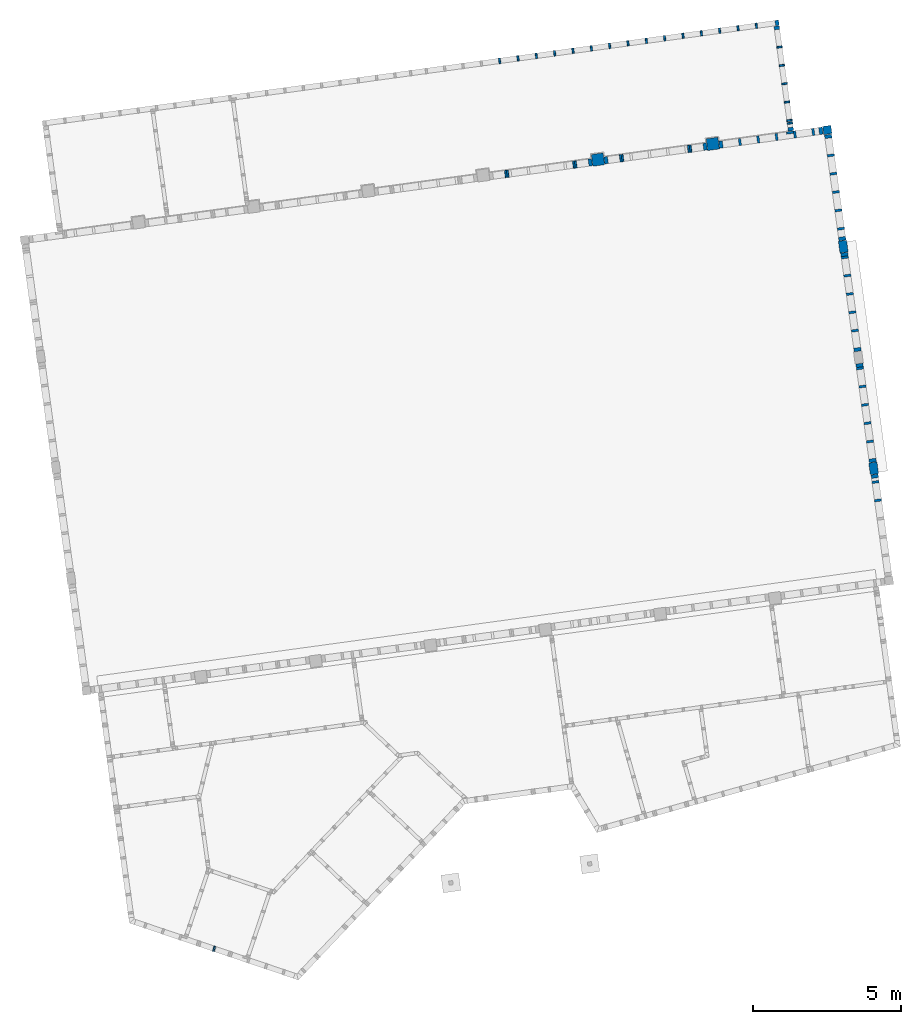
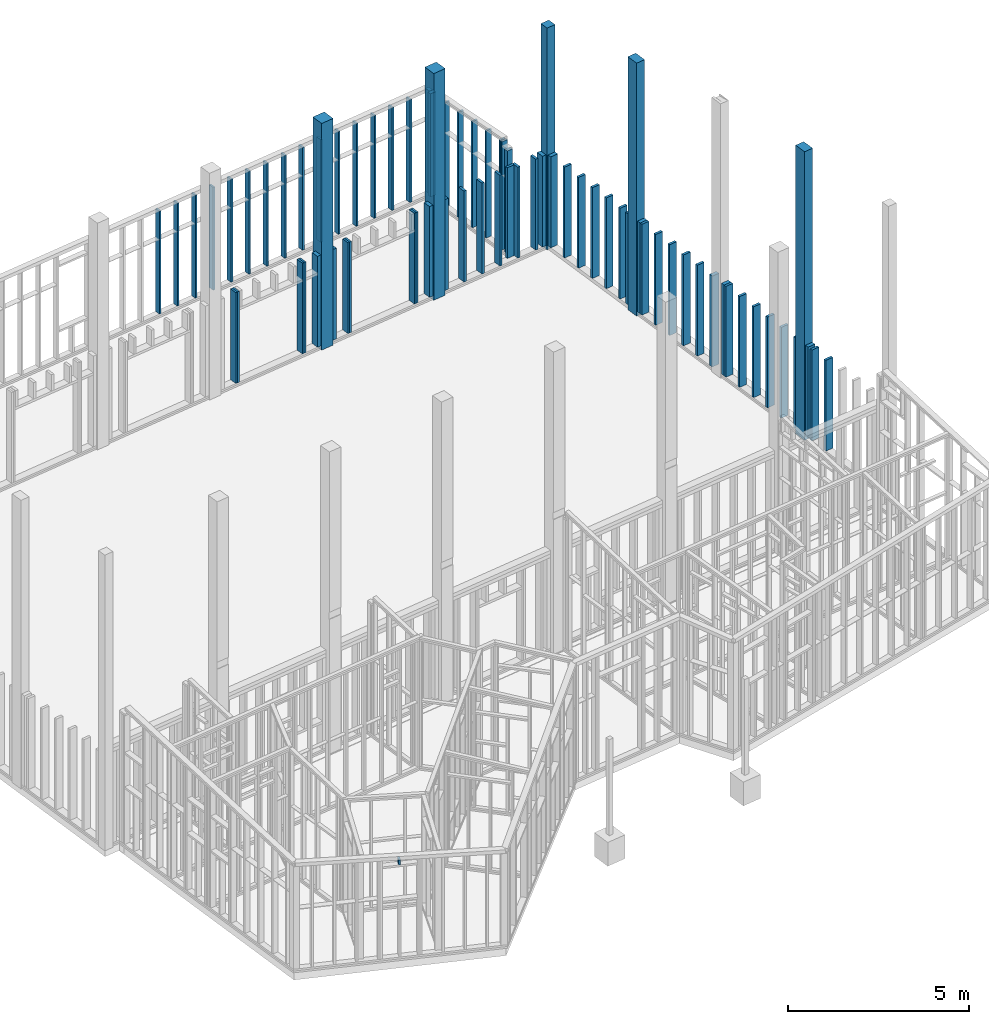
# One storey, part 7 of 24: 73 columns.
"""IFC2X3 building model written with IfcOpenShell, lengths in metres."""

from ifc_helpers import new_model, entity, si_unit, converted_unit, derived_unit, money_unit, direction, frame, origin_with_axes, origin_2d_with_axis, place, context, subcontext, project, spatial, rectangle, extrude, material, type_object, element, save


model = new_model("IFC2X3")

# Units and contexts
model_context = context("Model", 3, precision=1e-05, world=origin_with_axes(), true_north=direction((0.0, 1.0)))
body_context = subcontext(model_context, "Body", "Model", "MODEL_VIEW")
ifc_project = project(units=[si_unit("LENGTHUNIT", "METRE"), si_unit("AREAUNIT", "SQUARE_METRE"), si_unit("VOLUMEUNIT", "CUBIC_METRE"), converted_unit("PLANEANGLEUNIT", "DEGREE", entity("IfcPlaneAngleMeasure", 0.0174532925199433), si_unit("PLANEANGLEUNIT", "RADIAN"), dimensions=[0, 0, 0, 0, 0, 0, 0]), money_unit("EUR"), converted_unit("TIMEUNIT", "Year", entity("IfcTimeMeasure", 31557600.0), si_unit("TIMEUNIT", "SECOND"), dimensions=[0, 0, 1, 0, 0, 0, 0]), si_unit("MASSUNIT", "GRAM", prefix="KILO"), si_unit("THERMODYNAMICTEMPERATUREUNIT", "DEGREE_CELSIUS"), si_unit("LUMINOUSINTENSITYUNIT", "LUMEN"), si_unit("ENERGYUNIT", "JOULE", prefix="MEGA"), derived_unit("THERMALCONDUCTANCEUNIT", [(si_unit("POWERUNIT", "WATT"), 1), (si_unit("LENGTHUNIT", "METRE"), -1), (si_unit("THERMODYNAMICTEMPERATUREUNIT", "KELVIN"), -1)]), derived_unit("SPECIFICHEATCAPACITYUNIT", [(si_unit("ENERGYUNIT", "JOULE"), 1), (si_unit("MASSUNIT", "GRAM", prefix="KILO"), -1), (si_unit("THERMODYNAMICTEMPERATUREUNIT", "KELVIN"), -1)]), derived_unit("MASSDENSITYUNIT", [(si_unit("MASSUNIT", "GRAM", prefix="KILO"), 1), (si_unit("VOLUMEUNIT", "CUBIC_METRE"), -1)])], contexts=[model_context])

# Site, building, storey
site_placement = place(None, origin_with_axes())
site = spatial("IfcSite", under=ifc_project, at=site_placement, Name="Gelände", CompositionType="ELEMENT")
building_placement = place(site_placement, origin_with_axes())
building = spatial("IfcBuilding", under=site, at=building_placement, Name="Gebäude", CompositionType="ELEMENT")
storey_placement = place(building_placement, origin_with_axes())
storey = spatial("IfcBuildingStorey", under=building, at=storey_placement, Name="EG", CompositionType="ELEMENT", Elevation=0.0)

# Columns
ifc_material_1 = material(Name="Holz, Brettschichtholz")
column_type_1 = type_object("IfcColumnType", Name="Holz, Brettschichtholz 400 x 400", PredefinedType="NOTDEFINED")
column_1_placement = place(storey_placement, frame((103.8704692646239, -133.0802627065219, -0.168000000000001), z_axis=(0.0, 0.0, 1.0), x_axis=(-0.9907484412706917, -0.1357111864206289, 0.0)))
element("IfcColumn", 1, at=column_1_placement, inside=storey, type_object=column_type_1, material=ifc_material_1, Name="Stütze-011", context=body_context, shape_type="SweptSolid", body=[
    extrude(rectangle(XDim=0.4, YDim=0.4, at=origin_2d_with_axis()), frame((0.0, 0.0, 0.0), z_axis=(0.0, 0.0, -1.0), x_axis=(-1.0, 0.0, 0.0)), (0.0, 0.0, -1.0), 7.634011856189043),
])
column_2_placement = place(storey_placement, frame((107.7485417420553, -132.5490504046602, -0.168000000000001), z_axis=(0.0, 0.0, 1.0), x_axis=(-0.9907484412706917, -0.1357111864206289, 0.0)))
element("IfcColumn", 2, at=column_2_placement, inside=storey, type_object=column_type_1, material=ifc_material_1, Name="Stütze-011", context=body_context, shape_type="SweptSolid", body=[
    extrude(rectangle(XDim=0.4, YDim=0.4, at=origin_2d_with_axis()), frame((0.0, 0.0, 0.0), z_axis=(0.0, 0.0, -1.0), x_axis=(-1.0, 0.0, 0.0)), (0.0, 0.0, -1.0), 7.634011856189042),
])
column_type_2 = type_object("IfcColumnType", Name="Holz, Brettschichtholz 280 x 400", PredefinedType="NOTDEFINED")
column_3_placement = place(storey_placement, frame((112.1542581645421, -136.01723144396, -0.1680000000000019), z_axis=(0.0, 0.0, 1.0), x_axis=(-0.9907484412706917, -0.1357111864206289, 0.0)))
element("IfcColumn", 3, at=column_3_placement, inside=storey, type_object=column_type_2, material=ifc_material_1, Name="Stütze-011", context=body_context, shape_type="SweptSolid", body=[
    extrude(rectangle(XDim=0.28, YDim=0.4, at=origin_2d_with_axis()), frame((0.0, 0.0, 0.0), z_axis=(0.0, 0.0, -1.0), x_axis=(-1.0, 0.0, 0.0)), (0.0, 0.0, -1.0), 8.520000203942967),
])
column_4_placement = place(storey_placement, frame((113.1802347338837, -143.5072896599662, -0.1680000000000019), z_axis=(0.0, 0.0, 1.0), x_axis=(-0.9907484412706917, -0.1357111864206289, 0.0)))
element("IfcColumn", 4, at=column_4_placement, inside=storey, type_object=column_type_2, material=ifc_material_1, Name="Stütze-011", context=body_context, shape_type="SweptSolid", body=[
    extrude(rectangle(XDim=0.28, YDim=0.4, at=origin_2d_with_axis()), frame((0.0, 0.0, 0.0), z_axis=(0.0, 0.0, -1.0), x_axis=(-1.0, 0.0, 0.0)), (0.0, 0.0, -1.0), 9.720561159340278),
])
ifc_material_2 = material(Name="Bauholz")
column_type_3 = type_object("IfcColumnType", Name="Bauholz 80 x 240", PredefinedType="NOTDEFINED")
for number, where, z_axis, x_axis in (
    (5, (111.9039525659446, -134.1751586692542, -0.02800000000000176), (0.0, 0.0, 1.0), (-0.1357111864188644, 0.9907484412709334, 0.0)),
    (6, (112.3754132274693, -137.6170187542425, -0.02800000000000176), (0.0, 0.0, 1.0), (0.1357111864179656, -0.9907484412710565, 0.0)),
    (7, (112.2905937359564, -136.9978009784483, -0.02800000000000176), (0.0, 0.0, 1.0), (0.1357111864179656, -0.9907484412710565, 0.0)),
    (8, (112.2064528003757, -136.3835369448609, -0.02800000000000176), (0.0, 0.0, 1.0), (0.1357111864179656, -0.9907484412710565, 0.0)),
    (9, (111.9887720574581, -134.7943764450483, -0.02800000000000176), (0.0, 0.0, 1.0), (-0.1357111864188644, 0.9907484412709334, 0.0)),
    (10, (112.0735915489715, -135.4135942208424, -0.02800000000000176), (0.0, 0.0, 1.0), (-0.1357111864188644, 0.9907484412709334, 0.0)),
):
    element("IfcColumn", number, at=place(storey_placement, frame(where, z_axis=z_axis, x_axis=x_axis)), inside=storey, type_object=column_type_3, material=ifc_material_2, Name="Stütze-018", context=body_context, shape_type="SweptSolid", body=[
        extrude(rectangle(XDim=0.08, YDim=0.24, at=origin_2d_with_axis()), origin_with_axes(), (0.0, 0.0, 1.0), 3.059999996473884),
    ])
for number, where, z_axis, x_axis in (
    (11, (108.6629438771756, -132.4823040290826, -0.0280000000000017), (0.0, 0.0, 1.0), (0.9907484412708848, 0.1357111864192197, 0.0)),
    (12, (109.9013794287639, -132.3126650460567, -0.0280000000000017), (0.0, 0.0, 1.0), (0.9907484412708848, 0.1357111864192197, 0.0)),
    (13, (109.2821616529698, -132.3974845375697, -0.0280000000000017), (0.0, 0.0, 1.0), (0.9907484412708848, 0.1357111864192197, 0.0)),
    (14, (110.5205972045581, -132.2278455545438, -0.0280000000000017), (0.0, 0.0, 1.0), (0.9907484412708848, 0.1357111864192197, 0.0)),
    (15, (111.1398149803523, -132.1430260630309, -0.0280000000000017), (0.0, 0.0, 1.0), (0.9907484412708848, 0.1357111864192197, 0.0)),
    (16, (110.3512252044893, -132.1703333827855, -0.0280000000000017), (0.0, 0.0, 1.0), (0.1357111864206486, -0.9907484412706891, 0.0)),
):
    element("IfcColumn", number, at=place(storey_placement, frame(where, z_axis=z_axis, x_axis=x_axis)), inside=storey, type_object=column_type_3, material=ifc_material_2, Name="Stütze-018", context=body_context, shape_type="SweptSolid", body=[
        extrude(rectangle(XDim=0.08, YDim=0.24, at=origin_2d_with_axis()), origin_with_axes(), (0.0, 0.0, 1.0), 3.06),
    ])
for number, where, z_axis, x_axis in (
    (17, (112.4602327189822, -138.2362365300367, -0.02800000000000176), (0.0, 0.0, 1.0), (0.1357111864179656, -0.9907484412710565, 0.0)),
    (18, (112.5450522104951, -138.8554543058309, -0.02800000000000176), (0.0, 0.0, 1.0), (0.1357111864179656, -0.9907484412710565, 0.0)),
    (19, (111.8191330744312, -133.5559408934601, -0.02800000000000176), (0.0, 0.0, 1.0), (-0.1357111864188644, 0.9907484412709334, 0.0)),
    (20, (113.330141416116, -144.586933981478, -0.02800000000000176), (0.0, 0.0, 1.0), (0.1357111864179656, -0.9907484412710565, 0.0)),
    (21, (113.058040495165, -142.6004834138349, -0.0280000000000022), (0.0, 0.0, 1.0), (0.1357111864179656, -0.9907484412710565, 0.0)),
    (22, (112.7194410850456, -140.1285660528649, -0.0280000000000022), (0.0, 0.0, 1.0), (0.1357111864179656, -0.9907484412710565, 0.0)),
    (23, (111.7343135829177, -132.936723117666, -0.02800000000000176), (0.0, 0.0, 1.0), (-0.1357111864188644, 0.9907484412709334, 0.0)),
    (24, (112.8884015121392, -141.3620478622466, -0.0280000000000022), (0.0, 0.0, 1.0), (0.1357111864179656, -0.9907484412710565, 0.0)),
    (25, (112.8035820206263, -140.7428300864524, -0.0280000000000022), (0.0, 0.0, 1.0), (0.1357111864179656, -0.9907484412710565, 0.0)),
    (26, (113.2453219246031, -143.9677162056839, -0.02800000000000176), (0.0, 0.0, 1.0), (0.1357111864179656, -0.9907484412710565, 0.0)),
    (27, (112.9732210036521, -141.9812656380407, -0.0280000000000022), (0.0, 0.0, 1.0), (0.1357111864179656, -0.9907484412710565, 0.0)),
):
    element("IfcColumn", number, at=place(storey_placement, frame(where, z_axis=z_axis, x_axis=x_axis)), inside=storey, type_object=column_type_3, material=ifc_material_2, Name="Stütze-018", context=body_context, shape_type="SweptSolid", body=[
        extrude(rectangle(XDim=0.08, YDim=0.24, at=origin_2d_with_axis()), origin_with_axes(), (0.0, 0.0, 1.0), 3.059999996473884),
    ])
column_type_4 = type_object("IfcColumnType", Name="Bauholz 60 x 180", PredefinedType="NOTDEFINED")
column_5_placement = place(storey_placement, frame((90.90562855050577, -159.7320371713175, 3.06), z_axis=(0.0, 0.0, 1.0), x_axis=(0.9474859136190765, -0.31979750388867, 0.0)))
element("IfcColumn", 28, at=column_5_placement, inside=storey, type_object=column_type_4, material=ifc_material_2, Name="Stütze-018", context=body_context, shape_type="SweptSolid", body=[
    extrude(rectangle(XDim=0.06, YDim=0.18, at=origin_2d_with_axis()), origin_with_axes(), (0.0, 0.0, 1.0), 0.1659924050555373),
])
column_6_placement = place(storey_placement, frame((110.1691698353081, -130.5172470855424, 0.0499999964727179), z_axis=(0.0, 0.0, 1.0), x_axis=(0.1357111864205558, -0.9907484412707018, 0.0)))
element("IfcColumn", 29, at=column_6_placement, inside=storey, type_object=column_type_4, material=ifc_material_2, Name="Stütze-018", context=body_context, shape_type="SweptSolid", body=[
    extrude(rectangle(XDim=0.06, YDim=0.18, at=origin_2d_with_axis()), origin_with_axes(), (0.0, 0.0, 1.0), 3.573430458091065),
])
column_7_placement = place(storey_placement, frame((110.253989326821, -131.1364648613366, 0.0499999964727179), z_axis=(0.0, 0.0, 1.0), x_axis=(0.1357111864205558, -0.9907484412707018, 0.0)))
element("IfcColumn", 30, at=column_7_placement, inside=storey, type_object=column_type_4, material=ifc_material_2, Name="Stütze-018", context=body_context, shape_type="SweptSolid", body=[
    extrude(rectangle(XDim=0.06, YDim=0.18, at=origin_2d_with_axis()), origin_with_axes(), (0.0, 0.0, 1.0), 3.606185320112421),
])
column_8_placement = place(storey_placement, frame((109.9995308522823, -129.2788115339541, 0.0499999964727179), z_axis=(0.0, 0.0, 1.0), x_axis=(0.1357111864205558, -0.9907484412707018, 0.0)))
element("IfcColumn", 31, at=column_8_placement, inside=storey, type_object=column_type_4, material=ifc_material_2, Name="Stütze-018", context=body_context, shape_type="SweptSolid", body=[
    extrude(rectangle(XDim=0.06, YDim=0.18, at=origin_2d_with_axis()), origin_with_axes(), (0.0, 0.0, 1.0), 3.507920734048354),
])
column_9_placement = place(storey_placement, frame((110.0843503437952, -129.8980293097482, 0.0499999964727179), z_axis=(0.0, 0.0, 1.0), x_axis=(0.1357111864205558, -0.9907484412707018, 0.0)))
element("IfcColumn", 32, at=column_9_placement, inside=storey, type_object=column_type_4, material=ifc_material_2, Name="Stütze-018", context=body_context, shape_type="SweptSolid", body=[
    extrude(rectangle(XDim=0.06, YDim=0.18, at=origin_2d_with_axis()), origin_with_axes(), (0.0, 0.0, 1.0), 3.54067559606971),
])
column_10_placement = place(storey_placement, frame((110.3388088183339, -131.7556826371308, 0.0499999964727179), z_axis=(0.0, 0.0, 1.0), x_axis=(0.1357111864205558, -0.9907484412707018, 0.0)))
element("IfcColumn", 33, at=column_10_placement, inside=storey, type_object=column_type_4, material=ifc_material_2, Name="Stütze-018", context=body_context, shape_type="SweptSolid", body=[
    extrude(rectangle(XDim=0.06, YDim=0.18, at=origin_2d_with_axis()), origin_with_axes(), (0.0, 0.0, 1.0), 3.638940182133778),
])
for number, where, z_axis, x_axis in (
    (34, (100.5507544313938, -129.7454328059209, 0.04999999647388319), (0.0, 0.0, 1.0), (0.9907484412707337, 0.1357111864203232, 0.0)),
    (35, (101.169972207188, -129.6606133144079, 0.04999999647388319), (0.0, 0.0, 1.0), (0.9907484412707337, 0.1357111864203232, 0.0)),
    (36, (102.4084077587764, -129.4909743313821, 0.04999999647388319), (0.0, 0.0, 1.0), (0.9907484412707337, 0.1357111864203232, 0.0)),
    (37, (101.7891899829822, -129.575793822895, 0.04999999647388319), (0.0, 0.0, 1.0), (0.9907484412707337, 0.1357111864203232, 0.0)),
    (38, (103.0276255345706, -129.4061548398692, 0.04999999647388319), (0.0, 0.0, 1.0), (0.9907484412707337, 0.1357111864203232, 0.0)),
    (39, (103.6468433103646, -129.3213353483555, 0.04999999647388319), (0.0, 0.0, 1.0), (0.9907484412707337, 0.1357111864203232, 0.0)),
    (40, (104.2660610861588, -129.2365158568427, 0.04999999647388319), (0.0, 0.0, 1.0), (0.9907484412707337, 0.1357111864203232, 0.0)),
    (41, (104.885278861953, -129.1516963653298, 0.04999999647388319), (0.0, 0.0, 1.0), (0.9907484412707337, 0.1357111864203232, 0.0)),
    (42, (105.5044966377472, -129.0668768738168, 0.04999999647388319), (0.0, 0.0, 1.0), (0.9907484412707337, 0.1357111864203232, 0.0)),
    (43, (106.7429321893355, -128.897237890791, 0.04999999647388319), (0.0, 0.0, 1.0), (0.9907484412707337, 0.1357111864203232, 0.0)),
    (44, (106.1237144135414, -128.9820573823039, 0.04999999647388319), (0.0, 0.0, 1.0), (0.9907484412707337, 0.1357111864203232, 0.0)),
    (45, (107.9813677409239, -128.7275989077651, 0.04999999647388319), (0.0, 0.0, 1.0), (0.9907484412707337, 0.1357111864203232, 0.0)),
    (46, (108.6005855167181, -128.6427794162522, 0.04999999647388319), (0.0, 0.0, 1.0), (0.9907484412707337, 0.1357111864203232, 0.0)),
    (47, (109.2198032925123, -128.5579599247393, 0.04999999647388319), (0.0, 0.0, 1.0), (0.9907484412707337, 0.1357111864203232, 0.0)),
    (48, (107.3621499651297, -128.812418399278, 0.04999999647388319), (0.0, 0.0, 1.0), (0.9907484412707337, 0.1357111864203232, 0.0)),
):
    element("IfcColumn", number, at=place(storey_placement, frame(where, z_axis=z_axis, x_axis=x_axis)), inside=storey, type_object=column_type_4, material=ifc_material_2, Name="Stütze-018", context=body_context, shape_type="SweptSolid", body=[
        extrude(rectangle(XDim=0.06, YDim=0.18, at=origin_2d_with_axis()), origin_with_axes(), (0.0, 0.0, 1.0), 3.463538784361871),
    ])
column_11_placement = place(storey_placement, frame((110.3516334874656, -131.8493080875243, 0.0499999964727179), z_axis=(0.0, 0.0, 1.0), x_axis=(0.1357111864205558, -0.9907484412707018, 0.0)))
element("IfcColumn", 49, at=column_11_placement, inside=storey, type_object=column_type_4, material=ifc_material_2, Name="Stütze-018", context=body_context, shape_type="SweptSolid", body=[
    extrude(rectangle(XDim=0.06, YDim=0.18, at=origin_2d_with_axis()), origin_with_axes(), (0.0, 0.0, 1.0), 3.643892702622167),
])
column_type_5 = type_object("IfcColumnType", Name="Bauholz 120 x 240", PredefinedType="NOTDEFINED")
for number, where, z_axis, x_axis in (
    (50, (111.646779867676, -132.2976903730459, -0.02800000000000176), (0.0, 0.0, 1.0), (-0.1357111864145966, 0.9907484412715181, 0.0)),
    (51, (112.1195976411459, -135.7494579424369, -0.02800000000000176), (0.0, 0.0, 1.0), (-0.1357111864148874, 0.9907484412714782, 0.0)),
):
    element("IfcColumn", number, at=place(storey_placement, frame(where, z_axis=z_axis, x_axis=x_axis)), inside=storey, type_object=column_type_5, material=ifc_material_2, Name="Stütze-018", context=body_context, shape_type="SweptSolid", body=[
        extrude(rectangle(XDim=0.12, YDim=0.24, at=origin_2d_with_axis()), origin_with_axes(), (0.0, 0.0, 1.0), 3.059999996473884),
    ])
for number, where, z_axis, x_axis in (
    (52, (104.1458429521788, -133.1010840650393, -0.02800000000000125), (0.0, 0.0, 1.0), (0.9907484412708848, 0.1357111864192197, 0.0)),
    (53, (103.6108380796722, -133.1743682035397, -0.02800000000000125), (0.0, 0.0, 1.0), (0.9907484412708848, 0.1357111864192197, 0.0)),
):
    element("IfcColumn", number, at=place(storey_placement, frame(where, z_axis=z_axis, x_axis=x_axis)), inside=storey, type_object=column_type_5, material=ifc_material_2, Name="Stütze-018", context=body_context, shape_type="SweptSolid", body=[
        extrude(rectangle(XDim=0.1200007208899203, YDim=0.24, at=origin_2d_with_axis()), origin_with_axes(), (0.0, 0.0, 1.0), 3.06),
    ])
column_12_placement = place(storey_placement, frame((107.4889105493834, -132.6431558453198, -0.02800000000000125), z_axis=(0.0, 0.0, 1.0), x_axis=(0.9907484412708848, 0.1357111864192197, 0.0)))
element("IfcColumn", 54, at=column_12_placement, inside=storey, type_object=column_type_5, material=ifc_material_2, Name="Stütze-018", context=body_context, shape_type="SweptSolid", body=[
    extrude(rectangle(XDim=0.1200007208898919, YDim=0.24, at=origin_2d_with_axis()), origin_with_axes(), (0.0, 0.0, 1.0), 3.06),
])
column_13_placement = place(storey_placement, frame((108.0239154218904, -132.5698717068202, -0.02800000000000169), z_axis=(0.0, 0.0, 1.0), x_axis=(0.9907484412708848, 0.1357111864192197, 0.0)))
element("IfcColumn", 55, at=column_13_placement, inside=storey, type_object=column_type_5, material=ifc_material_2, Name="Stütze-018", context=body_context, shape_type="SweptSolid", body=[
    extrude(rectangle(XDim=0.1200007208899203, YDim=0.24, at=origin_2d_with_axis()), origin_with_axes(), (0.0, 0.0, 1.0), 3.06),
])
column_14_placement = place(storey_placement, frame((111.3967054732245, -132.1078721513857, -0.02800000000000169), z_axis=(0.0, 0.0, 1.0), x_axis=(0.9907484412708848, 0.1357111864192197, 0.0)))
element("IfcColumn", 56, at=column_14_placement, inside=storey, type_object=column_type_5, material=ifc_material_2, Name="Stütze-018", context=body_context, shape_type="SweptSolid", body=[
    extrude(rectangle(XDim=0.1200007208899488, YDim=0.24, at=origin_2d_with_axis()), origin_with_axes(), (0.0, 0.0, 1.0), 3.06),
])
for number, where, z_axis, x_axis in (
    (57, (112.1928816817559, -136.2844621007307, -0.02800000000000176), (0.0, 0.0, 1.0), (0.1357111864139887, -0.9907484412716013, 0.0)),
    (58, (112.632585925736, -139.4944870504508, -0.02800000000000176), (0.0, 0.0, 1.0), (0.1357111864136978, -0.9907484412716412, 0.0)),
    (59, (113.1455742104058, -143.2395161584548, -0.0280000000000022), (0.0, 0.0, 1.0), (0.1357111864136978, -0.9907484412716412, 0.0)),
    (60, (112.7058699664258, -140.0294912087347, -0.0280000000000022), (0.0, 0.0, 1.0), (0.1357111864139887, -0.9907484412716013, 0.0)),
    (61, (113.2188582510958, -143.7745203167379, -0.02800000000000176), (0.0, 0.0, 1.0), (0.1357111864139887, -0.9907484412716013, 0.0)),
):
    element("IfcColumn", number, at=place(storey_placement, frame(where, z_axis=z_axis, x_axis=x_axis)), inside=storey, type_object=column_type_5, material=ifc_material_2, Name="Stütze-018", context=body_context, shape_type="SweptSolid", body=[
        extrude(rectangle(XDim=0.12, YDim=0.24, at=origin_2d_with_axis()), origin_with_axes(), (0.0, 0.0, 1.0), 3.059999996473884),
    ])
column_type_6 = type_object("IfcColumnType", Name="Bauholz 120 x 180", PredefinedType="NOTDEFINED")
column_15_placement = place(storey_placement, frame((110.3791827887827, -132.0504297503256, 0.0499999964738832), z_axis=(0.0, 0.0, 1.0), x_axis=(0.1357111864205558, -0.9907484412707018, 0.0)))
element("IfcColumn", 62, at=column_15_placement, inside=storey, type_object=column_type_6, material=ifc_material_2, Name="Stütze-018", context=body_context, shape_type="SweptSolid", body=[
    extrude(rectangle(XDim=0.120000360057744, YDim=0.18, at=origin_2d_with_axis()), origin_with_axes(), (0.0, 0.0, 1.0), 3.461949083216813),
])
column_16_placement = place(storey_placement, frame((109.9106400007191, -128.6298711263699, 0.04999999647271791), z_axis=(0.0, 0.0, 1.0), x_axis=(0.1357111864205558, -0.9907484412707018, 0.0)))
element("IfcColumn", 63, at=column_16_placement, inside=storey, type_object=column_type_6, material=ifc_material_2, Name="Stütze-018", context=body_context, shape_type="SweptSolid", body=[
    extrude(rectangle(XDim=0.1200003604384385, YDim=0.18, at=origin_2d_with_axis()), origin_with_axes(), (0.0, 0.0, 1.0), 3.475165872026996),
])
column_17_placement = place(storey_placement, frame((109.9179700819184, -128.462326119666, 0.04999999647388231), z_axis=(0.0, 0.0, 1.0), x_axis=(0.9907484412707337, 0.1357111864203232, 0.0)))
element("IfcColumn", 64, at=column_17_placement, inside=storey, type_object=column_type_6, material=ifc_material_2, Name="Stütze-018", context=body_context, shape_type="SweptSolid", body=[
    extrude(rectangle(XDim=0.12, YDim=0.18, at=origin_2d_with_axis()), origin_with_axes(), (0.0, 0.0, 1.0), 3.463538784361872),
])
column_type_7 = type_object("IfcColumnType", Name="Holz, Brettschichtholz 280 x 280", PredefinedType="NOTDEFINED")
column_18_placement = place(storey_placement, frame((111.6149419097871, -132.0799971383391, -0.168000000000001), z_axis=(0.0, 0.0, 1.0), x_axis=(-0.9907484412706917, -0.1357111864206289, 0.0)))
element("IfcColumn", 65, at=column_18_placement, inside=storey, type_object=column_type_7, material=ifc_material_1, Name="Stütze-011", context=body_context, shape_type="SweptSolid", body=[
    extrude(rectangle(XDim=0.28, YDim=0.28, at=origin_2d_with_axis()), frame((0.0, 0.0, 0.0), z_axis=(0.0, 0.0, -1.0), x_axis=(-1.0, 0.0, 0.0)), (0.0, 0.0, -1.0), 7.469259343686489),
])
column_type_8 = type_object("IfcColumnType", Name="Bauholz 60 x 240", PredefinedType="NOTDEFINED")
for number, where, z_axis, x_axis in (
    (66, (100.7603136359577, -133.5648286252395, -0.02800000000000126), (0.0, 0.0, 1.0), (0.9907484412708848, 0.1357111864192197, 0.0)),
    (67, (103.0588500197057, -133.2499786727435, -0.02800000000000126), (0.0, 0.0, 1.0), (0.9907484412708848, 0.1357111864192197, 0.0)),
    (68, (100.819758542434, -133.5566859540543, -0.02800000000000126), (0.0, 0.0, 1.0), (0.9907484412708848, 0.1357111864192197, 0.0)),
    (69, (103.1182949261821, -133.2418360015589, -0.02800000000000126), (0.0, 0.0, 1.0), (0.9907484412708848, 0.1357111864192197, 0.0)),
    (70, (104.6383861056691, -133.0336162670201, -0.02800000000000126), (0.0, 0.0, 1.0), (0.9907484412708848, 0.1357111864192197, 0.0)),
    (71, (106.9369224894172, -132.7187663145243, -0.02800000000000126), (0.0, 0.0, 1.0), (0.9907484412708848, 0.1357111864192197, 0.0)),
    (72, (104.6978310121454, -133.0254735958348, -0.02800000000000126), (0.0, 0.0, 1.0), (0.9907484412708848, 0.1357111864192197, 0.0)),
    (73, (106.9963673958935, -132.710623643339, -0.02800000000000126), (0.0, 0.0, 1.0), (0.9907484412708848, 0.1357111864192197, 0.0)),
):
    element("IfcColumn", number, at=place(storey_placement, frame(where, z_axis=z_axis, x_axis=x_axis)), inside=storey, type_object=column_type_8, material=ifc_material_2, Name="Stütze-018", context=body_context, shape_type="SweptSolid", body=[
        extrude(rectangle(XDim=0.06, YDim=0.24, at=origin_2d_with_axis()), origin_with_axes(), (0.0, 0.0, 1.0), 3.06),
    ])

save(model, "model.ifc")
